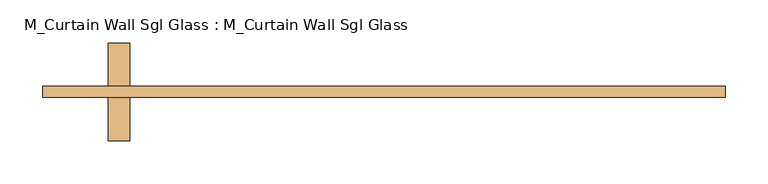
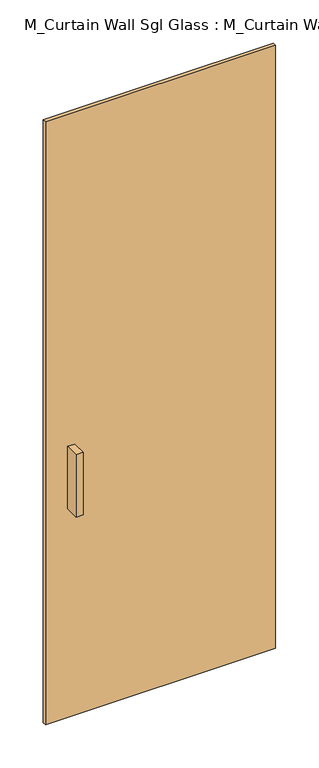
"""IFC4 building model written with IfcOpenShell, lengths in millimetres: door geometry, M_Curtain Wall Sgl Glass : M_Curtain Wall Sgl Glass."""

from ifc_helpers import new_model, si_unit, frame, origin, origin_with_axes, place, context, project, spatial, polyline, outline, extrude, source, transform, mapped, element, save


def m_curtain_wall_sgl_glass_m_curtain_wall_sgl_glass_a16a0dba(model_context):
    return source(origin(), model_context, "Body", "SweptSolid", [
        extrude(outline(polyline([(-296.7333333, 63.5), (-296.7333333, 12.7), (-322.1333333, 12.7), (-322.1333333, 63.5), (-296.7333333, 63.5)])), frame((0.0, 0.0, 762.0), z_axis=(0.0, 0.0, 1.0), x_axis=(1.0, 0.0, 0.0)), (0.0, 0.0, 1.0), 228.6),
        extrude(outline(polyline([(-322.1333333, -50.8), (-322.1333333, 0.0), (-296.7333333, 0.0), (-296.7333333, -50.8), (-322.1333333, -50.8)])), frame((0.0, 0.0, 762.0), z_axis=(0.0, 0.0, 1.0), x_axis=(1.0, 0.0, 0.0)), (0.0, 0.0, 1.0), 228.6),
        extrude(outline(polyline([(398.3333333, 0.0), (-398.3333333, 0.0), (-398.3333333, 12.7), (398.3333333, 12.7), (398.3333333, 0.0)])), origin_with_axes(), (0.0, 0.0, 1.0), 2204.5549543),
    ])


if __name__ == "__main__":
    model = new_model("IFC4")
    model_context = context("Model", 3, world=origin())
    ifc_project = project(units=[si_unit("LENGTHUNIT", "METRE", prefix="MILLI")], contexts=[model_context])
    site = spatial("IfcSite", under=ifc_project)
    building = spatial("IfcBuilding", under=site)
    placement = place(None, origin())
    m_curtain_wall_sgl_glass_m_curtain_wall_sgl_glass_shape = m_curtain_wall_sgl_glass_m_curtain_wall_sgl_glass_a16a0dba(model_context)
    element("IfcDoor", 1, ObjectType="M_Curtain Wall Sgl Glass : M_Curtain Wall Sgl Glass", at=placement, inside=building, context=model_context, shape_type="MappedRepresentation", body=[
        mapped(m_curtain_wall_sgl_glass_m_curtain_wall_sgl_glass_shape, transform((0.0, 0.0, 0.0), x_axis=(1.0, 0.0, 0.0), y_axis=(0.0, 1.0, 0.0), z_axis=(0.0, 0.0, 1.0))),
    ])
    save(model, "model.ifc")
